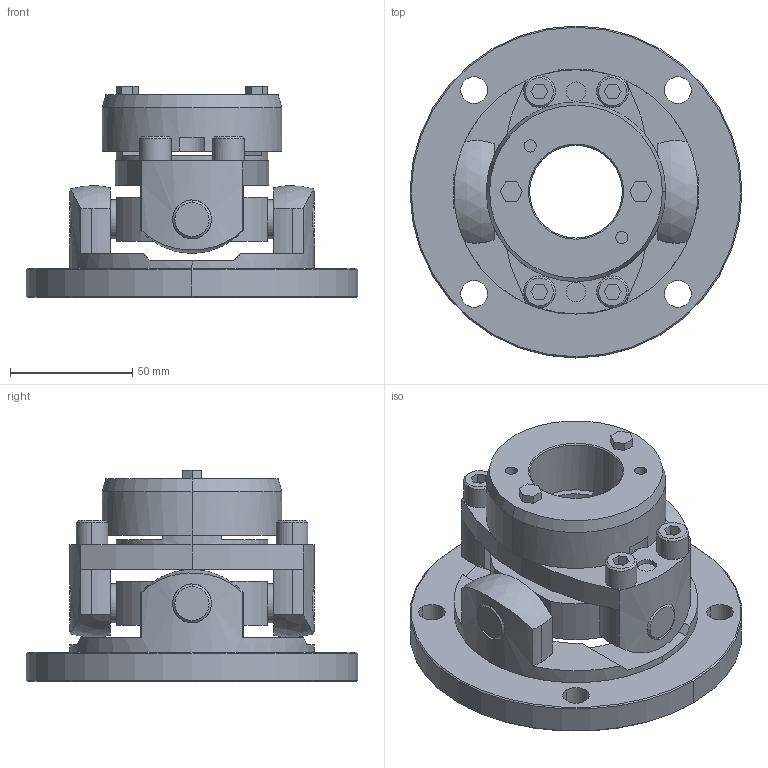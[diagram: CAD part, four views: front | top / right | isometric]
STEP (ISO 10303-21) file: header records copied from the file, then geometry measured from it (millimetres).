
FILE_DESCRIPTION((''),'2;1');
FILE_NAME('UCNF-100T7-38.stp','2011-09-17T16:48:26',(''),(''),'AutoCAD STEP 2000i','AutoCAD 2000i',', , ');
FILE_SCHEMA(('CONFIG_CONTROL_DESIGN'));
Length unit declared in the file: millimetre
Products named in the file (10): UCNF-100T7-38; 忣兜1; UCN100T7-T038; UCN100T7-T035; UCN100T7-T030; UCN100T7-T025; UCNF-10002; UCN100T7-T022-1; UCN100T7-T022; UCN100-SEN
Assembly tree (9 placements, depth 2):
  UCNF-100T7-38
    忣兜1
    UCN100T7-T038
    UCN100T7-T035
    UCN100T7-T030
    UCN100T7-T025
    UCNF-10002
    UCN100T7-T022-1
    UCN100T7-T022
    UCN100-SEN
Bounding box: 136 x 136 x 86.5 mm (x, y, z)
Volume: 379528.5 mm3; surface area: 86083 mm2
Topology: 1 solids, 1 shells, 272 faces, 682 edges, 444 vertices
Faces by surface type: plane 124, cylinder 106, cone 38, sphere 4
Entity records: 8851 total; most frequent: CARTESIAN_POINT 1812, DIRECTION 1536, ORIENTED_EDGE 1364, EDGE_CURVE 682, AXIS2_PLACEMENT_3D 588, VERTEX_POINT 444, VECTOR 360, LINE 360
